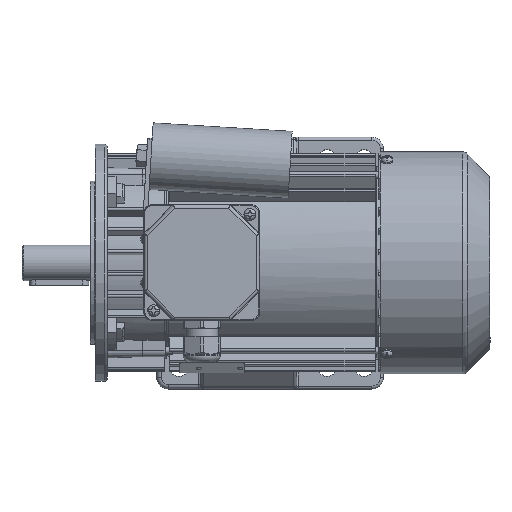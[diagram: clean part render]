
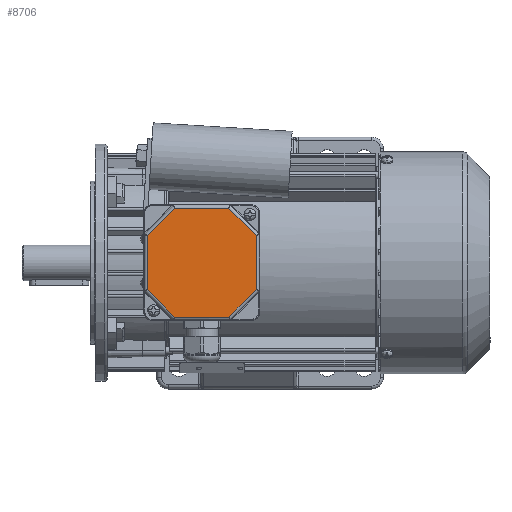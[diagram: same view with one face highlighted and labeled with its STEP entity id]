
A CAD part, top view. The second image highlights one B-rep face of the part: STEP entity #8706.
In plain terms, the highlighted planar face has unit normal (0, 0, 1).
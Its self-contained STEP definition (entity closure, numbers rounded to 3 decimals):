
#8706 = ADVANCED_FACE( '', ( #17717 ), #17718, .T. );
#17717 = FACE_OUTER_BOUND( '', #38984, .T. );
#17718 = PLANE( '', #38985 );
#38984 = EDGE_LOOP( '', ( #65720, #65721, #65722, #65723, #65724, #65725, #65726, #65727 ) );
#38985 = AXIS2_PLACEMENT_3D( '', #65728, #65729, #65730 );
#65720 = ORIENTED_EDGE( '', *, *, #72936, .T. );
#65721 = ORIENTED_EDGE( '', *, *, #77684, .T. );
#65722 = ORIENTED_EDGE( '', *, *, #81351, .T. );
#65723 = ORIENTED_EDGE( '', *, *, #72428, .T. );
#65724 = ORIENTED_EDGE( '', *, *, #81204, .T. );
#65725 = ORIENTED_EDGE( '', *, *, #79442, .T. );
#65726 = ORIENTED_EDGE( '', *, *, #81443, .T. );
#65727 = ORIENTED_EDGE( '', *, *, #79804, .T. );
#65728 = CARTESIAN_POINT( '', ( -39., 39., 12. ) );
#65729 = DIRECTION( '', ( 0., 0., 1. ) );
#65730 = DIRECTION( '', ( 1., 0., 0. ) );
#72428 = EDGE_CURVE( '', #85482, #85483, #85484, .T. );
#72936 = EDGE_CURVE( '', #86370, #86368, #86371, .F. );
#77684 = EDGE_CURVE( '', #86368, #93953, #93954, .T. );
#79442 = EDGE_CURVE( '', #96291, #88283, #96364, .T. );
#79804 = EDGE_CURVE( '', #96819, #86370, #96820, .T. );
#81204 = EDGE_CURVE( '', #85483, #96291, #98566, .F. );
#81351 = EDGE_CURVE( '', #93953, #85482, #98726, .F. );
#81443 = EDGE_CURVE( '', #88283, #96819, #98829, .F. );
#85482 = VERTEX_POINT( '', #103444 );
#85483 = VERTEX_POINT( '', #103445 );
#85484 = LINE( '', #103446, #103447 );
#86368 = VERTEX_POINT( '', #105485 );
#86370 = VERTEX_POINT( '', #105487 );
#86371 = LINE( '', #105488, #105489 );
#88283 = VERTEX_POINT( '', #111774 );
#93953 = VERTEX_POINT( '', #123579 );
#93954 = LINE( '', #123580, #123581 );
#96291 = VERTEX_POINT( '', #128554 );
#96364 = LINE( '', #128691, #128692 );
#96819 = VERTEX_POINT( '', #129670 );
#96820 = LINE( '', #129671, #129672 );
#98566 = LINE( '', #132781, #132782 );
#98726 = LINE( '', #133055, #133056 );
#98829 = LINE( '', #133251, #133252 );
#103444 = CARTESIAN_POINT( '', ( -18.255, 36.825, 12. ) );
#103445 = CARTESIAN_POINT( '', ( -36.825, 18.255, 12. ) );
#103446 = CARTESIAN_POINT( '', ( -37.401, 17.679, 12. ) );
#103447 = VECTOR( '', #136700, 1000. );
#105485 = CARTESIAN_POINT( '', ( 36.825, 18.255, 12. ) );
#105487 = CARTESIAN_POINT( '', ( 36.825, -18.255, 12. ) );
#105488 = CARTESIAN_POINT( '', ( 36.825, 19.069, 12. ) );
#105489 = VECTOR( '', #137316, 1000. );
#111774 = CARTESIAN_POINT( '', ( -18.255, -36.825, 12. ) );
#123579 = CARTESIAN_POINT( '', ( 18.255, 36.825, 12. ) );
#123580 = CARTESIAN_POINT( '', ( 17.679, 37.401, 12. ) );
#123581 = VECTOR( '', #143148, 1000. );
#128554 = CARTESIAN_POINT( '', ( -36.825, -18.255, 12. ) );
#128691 = CARTESIAN_POINT( '', ( -17.679, -37.401, 12. ) );
#128692 = VECTOR( '', #145157, 1000. );
#129670 = CARTESIAN_POINT( '', ( 18.255, -36.825, 12. ) );
#129671 = CARTESIAN_POINT( '', ( 37.401, -17.679, 12. ) );
#129672 = VECTOR( '', #145535, 1000. );
#132781 = CARTESIAN_POINT( '', ( -36.825, -19.069, 12. ) );
#132782 = VECTOR( '', #147183, 1000. );
#133055 = CARTESIAN_POINT( '', ( -19.069, 36.825, 12. ) );
#133056 = VECTOR( '', #147295, 1000. );
#133251 = CARTESIAN_POINT( '', ( 19.069, -36.825, 12. ) );
#133252 = VECTOR( '', #147376, 1000. );
#136700 = DIRECTION( '', ( -0.707, -0.707, 0. ) );
#137316 = DIRECTION( '', ( 0., -1., 0. ) );
#143148 = DIRECTION( '', ( -0.707, 0.707, 0. ) );
#145157 = DIRECTION( '', ( 0.707, -0.707, 0. ) );
#145535 = DIRECTION( '', ( 0.707, 0.707, 0. ) );
#147183 = DIRECTION( '', ( 0., 1., 0. ) );
#147295 = DIRECTION( '', ( 1., 0., 0. ) );
#147376 = DIRECTION( '', ( -1., 0., 0. ) );
